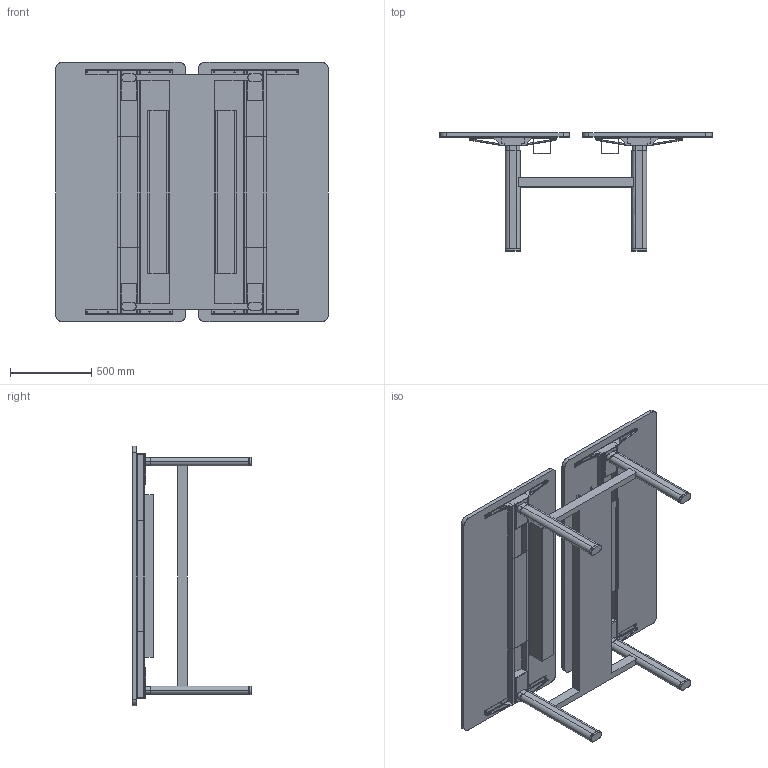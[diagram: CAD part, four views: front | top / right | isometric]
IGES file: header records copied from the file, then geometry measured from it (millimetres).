
Start section: SolidWorks IGES file using analytic representation for surfaces
Global section: file name: C:\Users\simone.cerana\OneDrive - Gruppo Tecno\Desktop\CHINA\DISEGNI DI SERIE\ASSIEMI LISTINO\AXIS LISTINO\FULL OPT\AX1616FO.IGS; native system: SolidWorks 2024; preprocessor: SolidWorks 2024; author: simone.cerana; date: 260512.110907; units: millimetre
Bounding box: 1680 x 730.14 x 1600 mm (x, y, z)
Surface area: 9732603.7 mm2 (no closed solid volume)
Topology: 0 solids, 0 shells, 622 faces, 6976 edges, 6968 vertices
Faces by surface type: bspline 334, revolution 288
